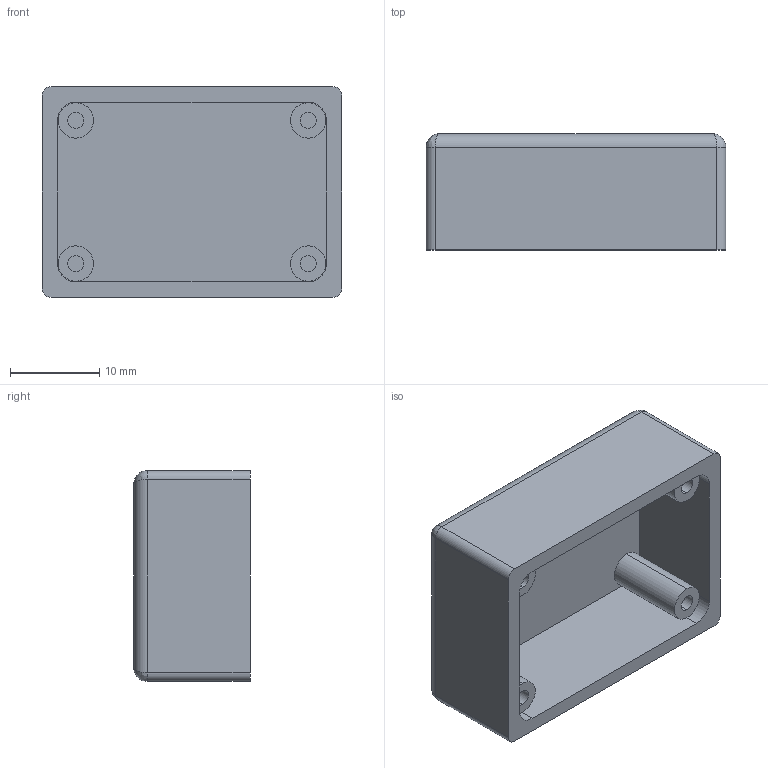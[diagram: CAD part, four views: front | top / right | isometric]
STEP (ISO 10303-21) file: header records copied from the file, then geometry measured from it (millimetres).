
FILE_DESCRIPTION (( 'STEP AP214' ), '1' );
FILE_NAME ('Tapa PP85A.STEP', '2018-01-22T10:50:20', ( 'aaa' ), ( '' ), 'SwSTEP 2.0', 'SolidWorks 2013', '' );
FILE_SCHEMA (( 'AUTOMOTIVE_DESIGN' ));
Length unit declared in the file: millimetre
Products named in the file (1): Tapa PP85A
Bounding box: 33.5 x 13 x 23.57 mm (x, y, z)
Volume: 3968.8 mm3; surface area: 4727.6 mm2
Topology: 1 solids, 1 shells, 51 faces, 112 edges, 68 vertices
Faces by surface type: cylinder 28, plane 19, bspline 4
Entity records: 1556 total; most frequent: CARTESIAN_POINT 416, DIRECTION 244, ORIENTED_EDGE 216, EDGE_CURVE 108, AXIS2_PLACEMENT_3D 96, VERTEX_POINT 68, EDGE_LOOP 60, LINE 52
